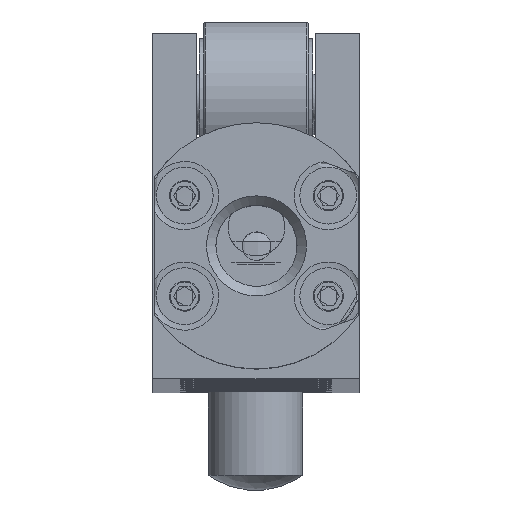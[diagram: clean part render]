
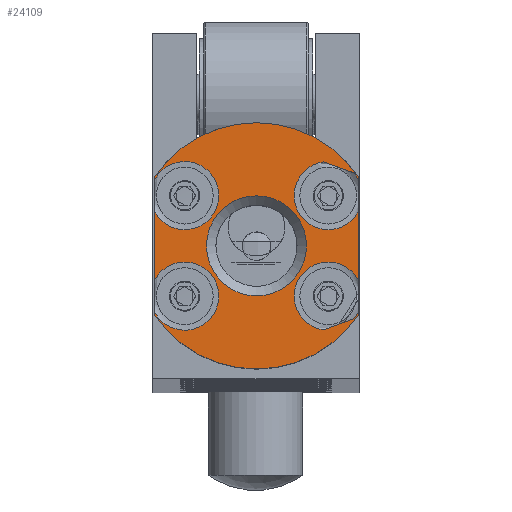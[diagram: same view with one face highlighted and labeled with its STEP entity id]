
A CAD part, top view. The second image highlights one B-rep face of the part: STEP entity #24109.
In plain terms, the highlighted planar face has unit normal (0, 0, 1).
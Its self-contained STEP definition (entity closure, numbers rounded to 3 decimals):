
#828=FACE_BOUND('',#3850,.T.);
#1434=PLANE('',#26659);
#2364=FACE_OUTER_BOUND('',#3849,.T.);
#3849=EDGE_LOOP('',(#19106,#19107,#19108,#19109,#19110,#19111,#19112,#19113,
#19114,#19115,#19116,#19117,#19118,#19119,#19120,#19121));
#3850=EDGE_LOOP('',(#19122));
#4942=LINE('',#44178,#5858);
#4943=LINE('',#44180,#5859);
#4944=LINE('',#44185,#5860);
#4951=LINE('',#44234,#5867);
#4954=LINE('',#44255,#5870);
#4955=LINE('',#44256,#5871);
#4956=LINE('',#44257,#5872);
#4959=LINE('',#44271,#5875);
#5858=VECTOR('',#32919,10.);
#5859=VECTOR('',#32920,10.);
#5860=VECTOR('',#32921,10.);
#5867=VECTOR('',#32960,10.);
#5870=VECTOR('',#32977,10.);
#5871=VECTOR('',#32978,10.);
#5872=VECTOR('',#32979,10.);
#5875=VECTOR('',#32996,10.);
#7338=CIRCLE('',#26620,13.);
#7343=CIRCLE('',#26629,13.);
#7349=CIRCLE('',#26640,5.283);
#7352=CIRCLE('',#26645,3.6);
#7355=CIRCLE('',#26651,3.6);
#7356=CIRCLE('',#26652,3.6);
#7359=CIRCLE('',#26658,3.6);
#7360=CIRCLE('',#26660,3.6);
#7361=CIRCLE('',#26661,3.6);
#9942=VERTEX_POINT('',#44150);
#9943=VERTEX_POINT('',#44152);
#9947=VERTEX_POINT('',#44167);
#9948=VERTEX_POINT('',#44169);
#9949=VERTEX_POINT('',#44173);
#9950=VERTEX_POINT('',#44174);
#9951=VERTEX_POINT('',#44179);
#9952=VERTEX_POINT('',#44181);
#9958=VERTEX_POINT('',#44203);
#9961=VERTEX_POINT('',#44213);
#9963=VERTEX_POINT('',#44218);
#9964=VERTEX_POINT('',#44225);
#9966=VERTEX_POINT('',#44230);
#9969=VERTEX_POINT('',#44246);
#9971=VERTEX_POINT('',#44251);
#9974=VERTEX_POINT('',#44268);
#9975=VERTEX_POINT('',#44270);
#13175=EDGE_CURVE('',#9943,#9942,#7338,.T.);
#13182=EDGE_CURVE('',#9947,#9948,#7343,.T.);
#13185=EDGE_CURVE('',#9943,#9950,#4942,.T.);
#13186=EDGE_CURVE('',#9951,#9948,#4943,.T.);
#13188=EDGE_CURVE('',#9949,#9952,#4944,.T.);
#13197=EDGE_CURVE('',#9958,#9958,#7349,.T.);
#13203=EDGE_CURVE('',#9963,#9961,#7352,.T.);
#13208=EDGE_CURVE('',#9964,#9966,#4951,.T.);
#13212=EDGE_CURVE('',#9966,#9951,#7355,.T.);
#13214=EDGE_CURVE('',#9952,#9964,#7356,.T.);
#13217=EDGE_CURVE('',#9961,#9971,#4954,.T.);
#13218=EDGE_CURVE('',#9947,#9963,#4955,.T.);
#13219=EDGE_CURVE('',#9969,#9942,#4956,.T.);
#13223=EDGE_CURVE('',#9971,#9969,#7359,.T.);
#13225=EDGE_CURVE('',#9950,#9974,#7360,.T.);
#13226=EDGE_CURVE('',#9974,#9975,#4959,.T.);
#13227=EDGE_CURVE('',#9975,#9949,#7361,.T.);
#19106=ORIENTED_EDGE('',*,*,#13225,.T.);
#19107=ORIENTED_EDGE('',*,*,#13226,.T.);
#19108=ORIENTED_EDGE('',*,*,#13227,.T.);
#19109=ORIENTED_EDGE('',*,*,#13188,.T.);
#19110=ORIENTED_EDGE('',*,*,#13214,.T.);
#19111=ORIENTED_EDGE('',*,*,#13208,.T.);
#19112=ORIENTED_EDGE('',*,*,#13212,.T.);
#19113=ORIENTED_EDGE('',*,*,#13186,.T.);
#19114=ORIENTED_EDGE('',*,*,#13182,.F.);
#19115=ORIENTED_EDGE('',*,*,#13218,.T.);
#19116=ORIENTED_EDGE('',*,*,#13203,.T.);
#19117=ORIENTED_EDGE('',*,*,#13217,.T.);
#19118=ORIENTED_EDGE('',*,*,#13223,.T.);
#19119=ORIENTED_EDGE('',*,*,#13219,.T.);
#19120=ORIENTED_EDGE('',*,*,#13175,.F.);
#19121=ORIENTED_EDGE('',*,*,#13185,.T.);
#19122=ORIENTED_EDGE('',*,*,#13197,.F.);
#24109=ADVANCED_FACE('',(#2364,#828),#1434,.T.);
#26620=AXIS2_PLACEMENT_3D('',#44154,#32894,#32895);
#26629=AXIS2_PLACEMENT_3D('',#44170,#32914,#32915);
#26640=AXIS2_PLACEMENT_3D('',#44204,#32943,#32944);
#26645=AXIS2_PLACEMENT_3D('',#44219,#32955,#32956);
#26651=AXIS2_PLACEMENT_3D('',#44242,#32970,#32971);
#26652=AXIS2_PLACEMENT_3D('',#44244,#32973,#32974);
#26658=AXIS2_PLACEMENT_3D('',#44265,#32989,#32990);
#26659=AXIS2_PLACEMENT_3D('',#44267,#32992,#32993);
#26660=AXIS2_PLACEMENT_3D('',#44269,#32994,#32995);
#26661=AXIS2_PLACEMENT_3D('',#44272,#32997,#32998);
#32894=DIRECTION('center_axis',(0.,0.,
-1.));
#32895=DIRECTION('ref_axis',(0.,1.,0.));
#32914=DIRECTION('center_axis',(0.,0.,
-1.));
#32915=DIRECTION('ref_axis',(0.,1.,0.));
#32919=DIRECTION('',(0.,1.,0.));
#32920=DIRECTION('',(0.,1.,0.));
#32921=DIRECTION('',(0.,1.,0.));
#32943=DIRECTION('center_axis',(0.,0.,
1.));
#32944=DIRECTION('ref_axis',(-1.,0.,0.));
#32955=DIRECTION('center_axis',(0.,0.,
-1.));
#32956=DIRECTION('ref_axis',(1.,0.,0.));
#32960=DIRECTION('',(0.94,-0.342,0.));
#32970=DIRECTION('center_axis',(0.,0.,
-1.));
#32971=DIRECTION('ref_axis',(-0.342,-0.94,0.));
#32973=DIRECTION('center_axis',(0.,0.,
-1.));
#32974=DIRECTION('ref_axis',(-0.342,-0.94,0.));
#32977=DIRECTION('',(0.,-1.,0.));
#32978=DIRECTION('',(0.,-1.,0.));
#32979=DIRECTION('',(0.,-1.,0.));
#32989=DIRECTION('center_axis',(0.,0.,
-1.));
#32990=DIRECTION('ref_axis',(1.,0.,0.));
#32992=DIRECTION('center_axis',(0.,0.,
1.));
#32993=DIRECTION('ref_axis',(1.,0.,0.));
#32994=DIRECTION('center_axis',(0.,0.,
-1.));
#32995=DIRECTION('ref_axis',(-0.342,0.94,0.));
#32996=DIRECTION('',(-0.94,-0.342,0.));
#32997=DIRECTION('center_axis',(0.,0.,
-1.));
#32998=DIRECTION('ref_axis',(-0.342,0.94,0.));
#44150=CARTESIAN_POINT('',(-10.7,-11.56,436.));
#44152=CARTESIAN_POINT('',(10.8,-11.56,436.));
#44154=CARTESIAN_POINT('Origin',(0.05,-4.25,436.));
#44167=CARTESIAN_POINT('',(-10.7,3.06,436.));
#44169=CARTESIAN_POINT('',(10.8,3.06,436.));
#44170=CARTESIAN_POINT('Origin',(0.05,-4.25,436.));
#44173=CARTESIAN_POINT('',(10.8,-7.855,436.));
#44174=CARTESIAN_POINT('',(10.8,-11.256,436.));
#44178=CARTESIAN_POINT('',(10.8,-4.655,436.));
#44179=CARTESIAN_POINT('',(10.8,2.756,436.));
#44180=CARTESIAN_POINT('',(10.8,-4.655,436.));
#44181=CARTESIAN_POINT('',(10.8,-0.645,436.));
#44185=CARTESIAN_POINT('',(10.8,-4.655,436.));
#44203=CARTESIAN_POINT('',(5.333,-4.25,436.));
#44204=CARTESIAN_POINT('Origin',(0.05,-4.25,436.));
#44213=CARTESIAN_POINT('',(-10.7,-0.645,436.));
#44218=CARTESIAN_POINT('',(-10.7,2.756,436.));
#44219=CARTESIAN_POINT('Origin',(-7.527,1.056,436.));
#44225=CARTESIAN_POINT('',(7.114,4.619,436.));
#44230=CARTESIAN_POINT('',(10.311,3.455,436.));
#44234=CARTESIAN_POINT('',(6.117,4.982,436.));
#44242=CARTESIAN_POINT('Origin',(7.627,1.056,436.));
#44244=CARTESIAN_POINT('Origin',(7.627,1.056,436.));
#44246=CARTESIAN_POINT('',(-10.7,-11.256,436.));
#44251=CARTESIAN_POINT('',(-10.7,-7.855,436.));
#44255=CARTESIAN_POINT('',(-10.7,2.655,436.));
#44256=CARTESIAN_POINT('',(-10.7,2.655,436.));
#44257=CARTESIAN_POINT('',(-10.7,2.655,436.));
#44265=CARTESIAN_POINT('Origin',(-7.527,-9.556,436.));
#44267=CARTESIAN_POINT('Origin',(0.05,2.25,436.));
#44268=CARTESIAN_POINT('',(10.311,-11.955,436.));
#44269=CARTESIAN_POINT('Origin',(7.627,-9.556,436.));
#44270=CARTESIAN_POINT('',(7.114,-13.119,436.));
#44271=CARTESIAN_POINT('',(8.206,-12.721,436.));
#44272=CARTESIAN_POINT('Origin',(7.627,-9.556,436.));
